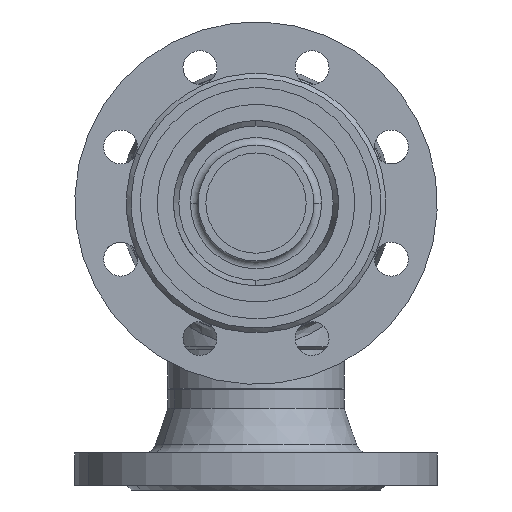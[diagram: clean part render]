
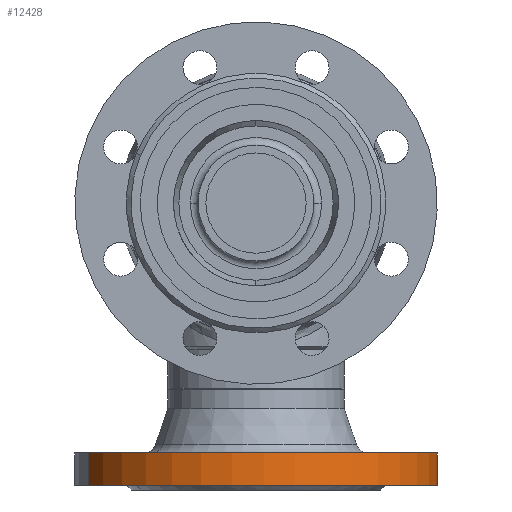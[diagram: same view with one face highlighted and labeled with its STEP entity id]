
A CAD part, front view. The second image highlights one B-rep face of the part: STEP entity #12428.
In plain terms, the highlighted cylindrical face has radius 117.5 mm (diameter 235 mm), a partial arc.
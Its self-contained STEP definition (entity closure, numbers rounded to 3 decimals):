
#118 = LINE ( 'NONE', #119, #120 ) ;
#119 = CARTESIAN_POINT ( 'NONE',  ( -117.5, 75., 0. ) ) ;
#120 = VECTOR ( 'NONE', #121, 1000. ) ;
#121 = DIRECTION ( 'NONE',  ( 0., 1., 0. ) ) ;
#187 = ORIENTED_EDGE ( 'NONE', *, *, #12812, .F. ) ;
#703 = ORIENTED_EDGE ( 'NONE', *, *, #1663, .T. ) ;
#938 = CARTESIAN_POINT ( 'NONE',  ( -117.5, 24., 0. ) ) ;
#1221 = EDGE_CURVE ( 'NONE', #14335, #14546, #19723, .T. ) ;
#1589 = ORIENTED_EDGE ( 'NONE', *, *, #1221, .T. ) ;
#1663 = EDGE_CURVE ( 'NONE', #14546, #2700, #118, .T. ) ;
#2268 = ORIENTED_EDGE ( 'NONE', *, *, #13452, .F. ) ;
#2700 = VERTEX_POINT ( 'NONE', #938 ) ;
#2769 = FACE_OUTER_BOUND ( 'NONE', #12193, .T. ) ;
#2770 = CYLINDRICAL_SURFACE ( 'NONE', #2771, 117.5 ) ;
#2771 = AXIS2_PLACEMENT_3D ( 'NONE', #2772, #2773, #2774 ) ;
#2772 = CARTESIAN_POINT ( 'NONE',  ( 0., 75., 0. ) ) ;
#2773 = DIRECTION ( 'NONE',  ( 0., 1., 0. ) ) ;
#2774 = DIRECTION ( 'NONE',  ( -1., 0., 0. ) ) ;
#3051 = CIRCLE ( 'NONE', #3053, 117.5 ) ;
#3053 = AXIS2_PLACEMENT_3D ( 'NONE', #3054, #3055, #3056 ) ;
#3054 = CARTESIAN_POINT ( 'NONE',  ( 0., 24., 0. ) ) ;
#3055 = DIRECTION ( 'NONE',  ( 0., 1., 0. ) ) ;
#3056 = DIRECTION ( 'NONE',  ( -1., 0., 0. ) ) ;
#19723 = CIRCLE ( 'NONE', #19724, 117.5 ) ;
#19724 = AXIS2_PLACEMENT_3D ( 'NONE', #19725, #19726, #19727 ) ;
#19725 = CARTESIAN_POINT ( 'NONE',  ( 0., 3., 0. ) ) ;
#19726 = DIRECTION ( 'NONE',  ( 0., 1., 0. ) ) ;
#19727 = DIRECTION ( 'NONE',  ( -1., 0., 0. ) ) ;
#5726 = CARTESIAN_POINT ( 'NONE',  ( 117.5, 24., 0. ) ) ;
#5863 = LINE ( 'NONE', #5864, #5865 ) ;
#5864 = CARTESIAN_POINT ( 'NONE',  ( 117.5, 75., 0. ) ) ;
#5865 = VECTOR ( 'NONE', #5866, 1000. ) ;
#5866 = DIRECTION ( 'NONE',  ( 0., 1., 0. ) ) ;
#8845 = CARTESIAN_POINT ( 'NONE',  ( 117.5, 3., 0. ) ) ;
#11942 = CARTESIAN_POINT ( 'NONE',  ( -117.5, 3., 0. ) ) ;
#12193 = EDGE_LOOP ( 'NONE', ( #2268, #1589, #703, #187 ) ) ;
#12428 = ADVANCED_FACE ( 'NONE', ( #2769 ), #2770, .T. ) ;
#12812 = EDGE_CURVE ( 'NONE', #13230, #2700, #3051, .T. ) ;
#13230 = VERTEX_POINT ( 'NONE', #5726 ) ;
#13452 = EDGE_CURVE ( 'NONE', #14335, #13230, #5863, .T. ) ;
#14335 = VERTEX_POINT ( 'NONE', #8845 ) ;
#14546 = VERTEX_POINT ( 'NONE', #11942 ) ;
